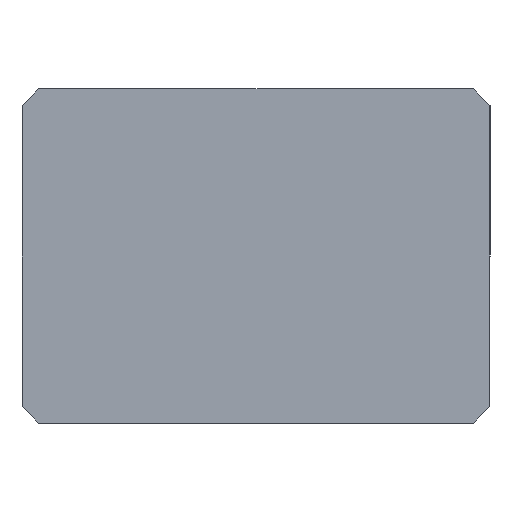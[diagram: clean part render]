
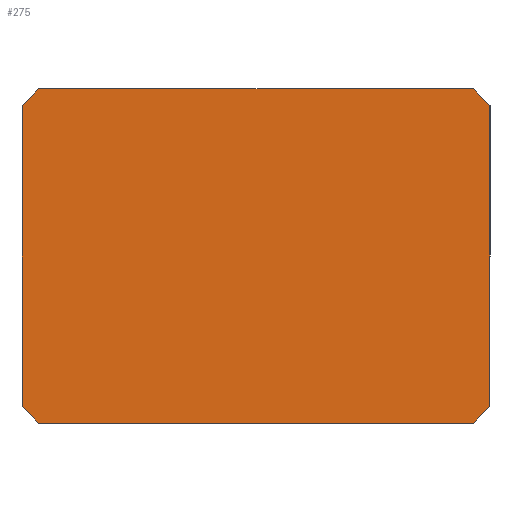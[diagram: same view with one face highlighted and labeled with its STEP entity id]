
A CAD part, left-side view. The second image highlights one B-rep face of the part: STEP entity #275.
In plain terms, the highlighted planar face has unit normal (-1, 0, 0).
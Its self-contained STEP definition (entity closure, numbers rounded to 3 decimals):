
#13 = CARTESIAN_POINT ( 'NONE',  ( -11., -7., 9.5 ) ) ;
#18 = CARTESIAN_POINT ( 'NONE',  ( -11., -6.5, 10. ) ) ;
#23 = DIRECTION ( 'NONE',  ( 0., -0.707, 0.707 ) ) ;
#41 = EDGE_CURVE ( 'NONE', #175, #501, #446, .T. ) ;
#43 = EDGE_CURVE ( 'NONE', #361, #236, #420, .T. ) ;
#45 = CARTESIAN_POINT ( 'NONE',  ( -11., -6.5, 0. ) ) ;
#61 = DIRECTION ( 'NONE',  ( 1., 0., 0. ) ) ;
#67 = ORIENTED_EDGE ( 'NONE', *, *, #339, .F. ) ;
#69 = CARTESIAN_POINT ( 'NONE',  ( -11., -6.5, 0. ) ) ;
#84 = ORIENTED_EDGE ( 'NONE', *, *, #43, .F. ) ;
#90 = DIRECTION ( 'NONE',  ( 0., -0.707, -0.707 ) ) ;
#121 = DIRECTION ( 'NONE',  ( 0., -1., 0. ) ) ;
#129 = VECTOR ( 'NONE', #23, 1000. ) ;
#136 = VERTEX_POINT ( 'NONE', #227 ) ;
#139 = ORIENTED_EDGE ( 'NONE', *, *, #436, .F. ) ;
#143 = ORIENTED_EDGE ( 'NONE', *, *, #424, .F. ) ;
#144 = ORIENTED_EDGE ( 'NONE', *, *, #41, .F. ) ;
#168 = VERTEX_POINT ( 'NONE', #431 ) ;
#171 = CARTESIAN_POINT ( 'NONE',  ( -11., 0., 10. ) ) ;
#175 = VERTEX_POINT ( 'NONE', #45 ) ;
#196 = LINE ( 'NONE', #439, #208 ) ;
#205 = FACE_OUTER_BOUND ( 'NONE', #371, .T. ) ;
#208 = VECTOR ( 'NONE', #296, 1000. ) ;
#220 = LINE ( 'NONE', #171, #518 ) ;
#227 = CARTESIAN_POINT ( 'NONE',  ( -11., -7., 0.5 ) ) ;
#236 = VERTEX_POINT ( 'NONE', #13 ) ;
#271 = VECTOR ( 'NONE', #515, 1000. ) ;
#273 = LINE ( 'NONE', #503, #291 ) ;
#275 = ADVANCED_FACE ( 'NONE', ( #205 ), #308, .F. ) ;
#289 = LINE ( 'NONE', #523, #271 ) ;
#291 = VECTOR ( 'NONE', #492, 1000. ) ;
#296 = DIRECTION ( 'NONE',  ( 0., 0.707, 0.707 ) ) ;
#302 = DIRECTION ( 'NONE',  ( 0., 0., -1. ) ) ;
#305 = CARTESIAN_POINT ( 'NONE',  ( -11., 0., 0. ) ) ;
#308 = PLANE ( 'NONE',  #429 ) ;
#317 = EDGE_CURVE ( 'NONE', #501, #375, #196, .T. ) ;
#318 = CARTESIAN_POINT ( 'NONE',  ( -11., 6.5, 0. ) ) ;
#330 = VECTOR ( 'NONE', #403, 1000. ) ;
#339 = EDGE_CURVE ( 'NONE', #168, #361, #220, .T. ) ;
#361 = VERTEX_POINT ( 'NONE', #18 ) ;
#370 = LINE ( 'NONE', #485, #129 ) ;
#371 = EDGE_LOOP ( 'NONE', ( #84, #67, #139, #143, #373, #144, #488, #496 ) ) ;
#373 = ORIENTED_EDGE ( 'NONE', *, *, #317, .F. ) ;
#375 = VERTEX_POINT ( 'NONE', #394 ) ;
#376 = EDGE_CURVE ( 'NONE', #136, #175, #289, .T. ) ;
#384 = VECTOR ( 'NONE', #465, 1000. ) ;
#393 = EDGE_CURVE ( 'NONE', #236, #136, #273, .T. ) ;
#394 = CARTESIAN_POINT ( 'NONE',  ( -11., 7., 0.5 ) ) ;
#403 = DIRECTION ( 'NONE',  ( 0., 0., 1. ) ) ;
#404 = CARTESIAN_POINT ( 'NONE',  ( -11., 7., 9.5 ) ) ;
#407 = VECTOR ( 'NONE', #90, 1000. ) ;
#420 = LINE ( 'NONE', #430, #407 ) ;
#424 = EDGE_CURVE ( 'NONE', #375, #451, #508, .T. ) ;
#429 = AXIS2_PLACEMENT_3D ( 'NONE', #305, #61, #302 ) ;
#430 = CARTESIAN_POINT ( 'NONE',  ( -11., -6.5, 10. ) ) ;
#431 = CARTESIAN_POINT ( 'NONE',  ( -11., 6.5, 10. ) ) ;
#436 = EDGE_CURVE ( 'NONE', #451, #168, #370, .T. ) ;
#438 = CARTESIAN_POINT ( 'NONE',  ( -11., 7., 0. ) ) ;
#439 = CARTESIAN_POINT ( 'NONE',  ( -11., 6.5, 0. ) ) ;
#446 = LINE ( 'NONE', #69, #384 ) ;
#451 = VERTEX_POINT ( 'NONE', #404 ) ;
#465 = DIRECTION ( 'NONE',  ( 0., 1., 0. ) ) ;
#485 = CARTESIAN_POINT ( 'NONE',  ( -11., 7., 9.5 ) ) ;
#488 = ORIENTED_EDGE ( 'NONE', *, *, #376, .F. ) ;
#492 = DIRECTION ( 'NONE',  ( 0., 0., -1. ) ) ;
#496 = ORIENTED_EDGE ( 'NONE', *, *, #393, .F. ) ;
#501 = VERTEX_POINT ( 'NONE', #318 ) ;
#503 = CARTESIAN_POINT ( 'NONE',  ( -11., -7., 0. ) ) ;
#508 = LINE ( 'NONE', #438, #330 ) ;
#515 = DIRECTION ( 'NONE',  ( 0., 0.707, -0.707 ) ) ;
#518 = VECTOR ( 'NONE', #121, 1000. ) ;
#523 = CARTESIAN_POINT ( 'NONE',  ( -11., -7., 0.5 ) ) ;
